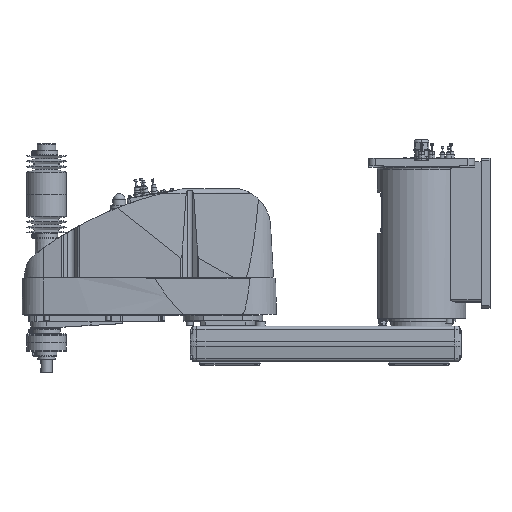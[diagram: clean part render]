
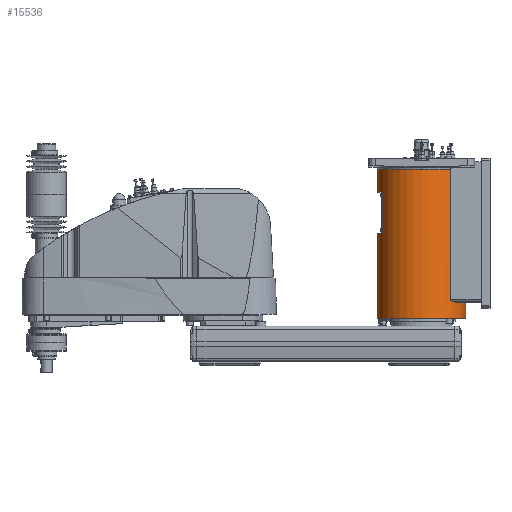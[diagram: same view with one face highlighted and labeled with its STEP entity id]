
A CAD part, top view. The second image highlights one B-rep face of the part: STEP entity #15536.
In plain terms, the highlighted cylindrical face has radius 100 mm (diameter 200 mm), a partial arc.
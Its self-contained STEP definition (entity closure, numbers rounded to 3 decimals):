
#12938 = EDGE_CURVE( '', #17030, #30526, #34438, .T. );
#14932 = VERTEX_POINT( '', #36664 );
#15536 = ADVANCED_FACE( '', ( #37330 ), #37331, .T. );
#17030 = VERTEX_POINT( '', #39016 );
#18504 = EDGE_CURVE( '', #19886, #28842, #40654, .T. );
#19114 = EDGE_CURVE( '', #29944, #22362, #41329, .T. );
#19312 = VERTEX_POINT( '', #41554 );
#19408 = EDGE_CURVE( '', #19498, #29716, #41665, .T. );
#19498 = VERTEX_POINT( '', #41765 );
#19708 = VERTEX_POINT( '', #41996 );
#19860 = EDGE_CURVE( '', #31416, #19312, #42180, .T. );
#19886 = VERTEX_POINT( '', #42209 );
#20030 = VERTEX_POINT( '', #42366 );
#20820 = VERTEX_POINT( '', #43242 );
#21036 = EDGE_CURVE( '', #19708, #29944, #43477, .T. );
#21844 = EDGE_CURVE( '', #31416, #19708, #44370, .T. );
#22362 = VERTEX_POINT( '', #44952 );
#23264 = EDGE_CURVE( '', #19312, #28842, #45949, .T. );
#23430 = EDGE_CURVE( '', #14932, #17030, #46129, .T. );
#24710 = EDGE_CURVE( '', #27512, #19886, #47544, .T. );
#25786 = EDGE_CURVE( '', #20820, #31214, #48773, .T. );
#25910 = EDGE_CURVE( '', #31214, #27512, #48910, .T. );
#27470 = EDGE_CURVE( '', #20030, #19498, #50658, .T. );
#27512 = VERTEX_POINT( '', #50707 );
#28842 = VERTEX_POINT( '', #52180 );
#29270 = EDGE_CURVE( '', #30526, #20820, #52654, .T. );
#29610 = EDGE_CURVE( '', #29716, #14932, #53057, .T. );
#29716 = VERTEX_POINT( '', #53179 );
#29944 = VERTEX_POINT( '', #53435 );
#30164 = EDGE_CURVE( '', #22362, #20030, #53688, .T. );
#30526 = VERTEX_POINT( '', #54099 );
#31214 = VERTEX_POINT( '', #54845 );
#31416 = VERTEX_POINT( '', #55074 );
#34438 = LINE( '', #59261, #59262 );
#36664 = CARTESIAN_POINT( '', ( 100., 64., 0. ) );
#37330 = FACE_OUTER_BOUND( '', #63450, .T. );
#37331 = CYLINDRICAL_SURFACE( '', #63451, 100. );
#39016 = CARTESIAN_POINT( '', ( 89.303, 64., 45. ) );
#40654 = LINE( '', #68303, #68304 );
#41329 = LINE( '', #69303, #69304 );
#41554 = CARTESIAN_POINT( '', ( 0., 363., 100. ) );
#41665 = CIRCLE( '', #69752, 100. );
#41765 = CARTESIAN_POINT( '', ( -100., 25., 0. ) );
#41996 = CARTESIAN_POINT( '', ( -100., 311.3, 0. ) );
#42180 = CIRCLE( '', #70495, 100. );
#42209 = CARTESIAN_POINT( '', ( 66.144, 68., 75. ) );
#42366 = CARTESIAN_POINT( '', ( -100., 218.3, 0. ) );
#43242 = CARTESIAN_POINT( '', ( 75.993, 62., 65. ) );
#43477 = CIRCLE( '', #72363, 100. );
#44370 = LINE( '', #73621, #73622 );
#44952 = CARTESIAN_POINT( '', ( -88., 218.3, 47.497 ) );
#45949 = CIRCLE( '', #75953, 100. );
#46129 = CIRCLE( '', #76208, 100. );
#47544 = B_SPLINE_CURVE_WITH_KNOTS( '', 3, ( #78287, #78288, #78289, #78290, #78291, #78292, #78293, #78294, #78295, #78296, #78297, #78298, #78299, #78300, #78301, #78302, #78303, #78304 ), .UNSPECIFIED., .F., .F., ( 4, 2, 2, 2, 2, 2, 2, 2, 4 ), ( 7.241, 8.361, 9.482, 10.602, 11.722, 12.472, 13.222, 13.972, 14.722 ), .UNSPECIFIED. );
#48773 = LINE( '', #80142, #80143 );
#48910 = CIRCLE( '', #80355, 100. );
#50658 = LINE( '', #82829, #82830 );
#50707 = CARTESIAN_POINT( '', ( 70.42, 64., 71. ) );
#52180 = CARTESIAN_POINT( '', ( 66.144, 363., 75. ) );
#52654 = CIRCLE( '', #85672, 100. );
#53057 = LINE( '', #86216, #86217 );
#53179 = CARTESIAN_POINT( '', ( 100., 25., 0. ) );
#53435 = CARTESIAN_POINT( '', ( -88., 311.3, 47.497 ) );
#53688 = CIRCLE( '', #87147, 100. );
#54099 = CARTESIAN_POINT( '', ( 89.303, 62., 45. ) );
#54845 = CARTESIAN_POINT( '', ( 75.993, 64., 65. ) );
#55074 = CARTESIAN_POINT( '', ( -100., 363., 0. ) );
#59261 = CARTESIAN_POINT( '', ( 89.303, 63., 45. ) );
#59262 = VECTOR( '', #92892, 1. );
#63450 = EDGE_LOOP( '', ( #96220, #96221, #96222, #96223, #96224, #96225, #96226, #96227, #96228, #96229, #96230, #96231, #96232, #96233, #96234, #96235 ) );
#63451 = AXIS2_PLACEMENT_3D( '', #96236, #96237, #96238 );
#68303 = CARTESIAN_POINT( '', ( 66.144, 215.5, 75. ) );
#68304 = VECTOR( '', #100038, 1. );
#69303 = CARTESIAN_POINT( '', ( -88., 264.8, 47.497 ) );
#69304 = VECTOR( '', #100809, 1. );
#69752 = AXIS2_PLACEMENT_3D( '', #101261, #101262, #101263 );
#70495 = AXIS2_PLACEMENT_3D( '', #101959, #101960, #101961 );
#72363 = AXIS2_PLACEMENT_3D( '', #103464, #103465, #103466 );
#73621 = CARTESIAN_POINT( '', ( -100., 194., 0. ) );
#73622 = VECTOR( '', #104471, 1. );
#75953 = AXIS2_PLACEMENT_3D( '', #106255, #106256, #106257 );
#76208 = AXIS2_PLACEMENT_3D( '', #106450, #106451, #106452 );
#78287 = CARTESIAN_POINT( '', ( 70.42, 64., 71. ) );
#78288 = CARTESIAN_POINT( '', ( 70.155, 64., 71.263 ) );
#78289 = CARTESIAN_POINT( '', ( 69.877, 64.026, 71.535 ) );
#78290 = CARTESIAN_POINT( '', ( 69.316, 64.139, 72.08 ) );
#78291 = CARTESIAN_POINT( '', ( 69.031, 64.224, 72.352 ) );
#78292 = CARTESIAN_POINT( '', ( 68.475, 64.457, 72.879 ) );
#78293 = CARTESIAN_POINT( '', ( 68.203, 64.604, 73.134 ) );
#78294 = CARTESIAN_POINT( '', ( 67.688, 64.954, 73.61 ) );
#78295 = CARTESIAN_POINT( '', ( 67.446, 65.158, 73.831 ) );
#78296 = CARTESIAN_POINT( '', ( 67.082, 65.542, 74.162 ) );
#78297 = CARTESIAN_POINT( '', ( 66.938, 65.716, 74.292 ) );
#78298 = CARTESIAN_POINT( '', ( 66.674, 66.103, 74.529 ) );
#78299 = CARTESIAN_POINT( '', ( 66.555, 66.315, 74.636 ) );
#78300 = CARTESIAN_POINT( '', ( 66.356, 66.766, 74.812 ) );
#78301 = CARTESIAN_POINT( '', ( 66.277, 67.005, 74.882 ) );
#78302 = CARTESIAN_POINT( '', ( 66.171, 67.497, 74.976 ) );
#78303 = CARTESIAN_POINT( '', ( 66.144, 67.75, 75. ) );
#78304 = CARTESIAN_POINT( '', ( 66.144, 68., 75. ) );
#80142 = CARTESIAN_POINT( '', ( 75.993, 63., 65. ) );
#80143 = VECTOR( '', #109505, 1. );
#80355 = AXIS2_PLACEMENT_3D( '', #109655, #109656, #109657 );
#82829 = CARTESIAN_POINT( '', ( -100., 194., 0. ) );
#82830 = VECTOR( '', #111716, 1. );
#85672 = AXIS2_PLACEMENT_3D( '', #113991, #113992, #113993 );
#86216 = CARTESIAN_POINT( '', ( 100., 194., 0. ) );
#86217 = VECTOR( '', #114560, 1. );
#87147 = AXIS2_PLACEMENT_3D( '', #115288, #115289, #115290 );
#92892 = DIRECTION( '', ( 0., -1., 0. ) );
#96220 = ORIENTED_EDGE( '', *, *, #29610, .T. );
#96221 = ORIENTED_EDGE( '', *, *, #23430, .T. );
#96222 = ORIENTED_EDGE( '', *, *, #12938, .T. );
#96223 = ORIENTED_EDGE( '', *, *, #29270, .T. );
#96224 = ORIENTED_EDGE( '', *, *, #25786, .T. );
#96225 = ORIENTED_EDGE( '', *, *, #25910, .T. );
#96226 = ORIENTED_EDGE( '', *, *, #24710, .T. );
#96227 = ORIENTED_EDGE( '', *, *, #18504, .T. );
#96228 = ORIENTED_EDGE( '', *, *, #23264, .F. );
#96229 = ORIENTED_EDGE( '', *, *, #19860, .F. );
#96230 = ORIENTED_EDGE( '', *, *, #21844, .T. );
#96231 = ORIENTED_EDGE( '', *, *, #21036, .T. );
#96232 = ORIENTED_EDGE( '', *, *, #19114, .T. );
#96233 = ORIENTED_EDGE( '', *, *, #30164, .T. );
#96234 = ORIENTED_EDGE( '', *, *, #27470, .T. );
#96235 = ORIENTED_EDGE( '', *, *, #19408, .T. );
#96236 = CARTESIAN_POINT( '', ( 0., 194., 0. ) );
#96237 = DIRECTION( '', ( 0., -1., 0. ) );
#96238 = DIRECTION( '', ( 1., 0., 0. ) );
#100038 = DIRECTION( '', ( 0., 1., 0. ) );
#100809 = DIRECTION( '', ( 0., -1., 0. ) );
#101261 = CARTESIAN_POINT( '', ( 0., 25., 0. ) );
#101262 = DIRECTION( '', ( 0., 1., 0. ) );
#101263 = DIRECTION( '', ( 1., 0., 0. ) );
#101959 = CARTESIAN_POINT( '', ( 0., 363., 0. ) );
#101960 = DIRECTION( '', ( 0., 1., 0. ) );
#101961 = DIRECTION( '', ( 1., 0., 0. ) );
#103464 = CARTESIAN_POINT( '', ( 0., 311.3, 0. ) );
#103465 = DIRECTION( '', ( 0., 1., 0. ) );
#103466 = DIRECTION( '', ( 1., 0., 0. ) );
#104471 = DIRECTION( '', ( 0., -1., 0. ) );
#106255 = CARTESIAN_POINT( '', ( 0., 363., 0. ) );
#106256 = DIRECTION( '', ( 0., 1., 0. ) );
#106257 = DIRECTION( '', ( 1., 0., 0. ) );
#106450 = CARTESIAN_POINT( '', ( 0., 64., 0. ) );
#106451 = DIRECTION( '', ( 0., -1., 0. ) );
#106452 = DIRECTION( '', ( 1., 0., 0. ) );
#109505 = DIRECTION( '', ( 0., 1., 0. ) );
#109655 = CARTESIAN_POINT( '', ( 0., 64., 0. ) );
#109656 = DIRECTION( '', ( 0., -1., 0. ) );
#109657 = DIRECTION( '', ( 1., 0., 0. ) );
#111716 = DIRECTION( '', ( 0., -1., 0. ) );
#113991 = CARTESIAN_POINT( '', ( 0., 62., 0. ) );
#113992 = DIRECTION( '', ( 0., -1., 0. ) );
#113993 = DIRECTION( '', ( 1., 0., 0. ) );
#114560 = DIRECTION( '', ( 0., 1., 0. ) );
#115288 = CARTESIAN_POINT( '', ( 0., 218.3, 0. ) );
#115289 = DIRECTION( '', ( 0., -1., 0. ) );
#115290 = DIRECTION( '', ( 1., 0., 0. ) );
